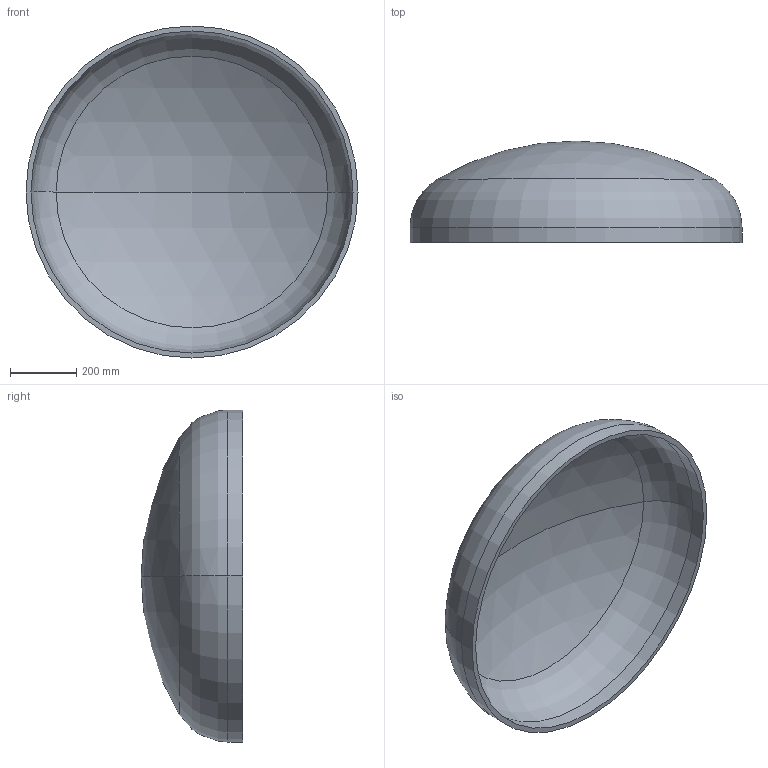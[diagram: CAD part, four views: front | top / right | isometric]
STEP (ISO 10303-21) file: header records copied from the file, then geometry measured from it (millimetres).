
FILE_DESCRIPTION (( 'STEP AP203' ), '1' );
FILE_NAME ('DIN 28013 Korbbogenform_-_Boden DIN 28013 - 1000 x 45 - I - s=15.step', '2016-07-01T08:43:04', ( '' ), ( '' ), 'SwSTEP 2.0', 'SolidWorks 2013', '' );
FILE_SCHEMA (( 'CONFIG_CONTROL_DESIGN' ));
Length unit declared in the file: millimetre
Products named in the file (1): DIN 28013 Korbbogenform_-_Boden DIN 28013 - 1000 x 45 - I - s=15
Bounding box: 1000 x 305.81 x 1000 mm (x, y, z)
Volume: 18105714.8 mm3; surface area: 2460982.8 mm2
Topology: 1 solids, 1 shells, 13 faces, 24 edges, 14 vertices
Faces by surface type: torus 4, cylinder 4, sphere 4, plane 1
Entity records: 407 total; most frequent: DIRECTION 72, CARTESIAN_POINT 52, ORIENTED_EDGE 48, AXIS2_PLACEMENT_3D 34, EDGE_CURVE 24, CIRCLE 20, EDGE_LOOP 14, VERTEX_POINT 14
